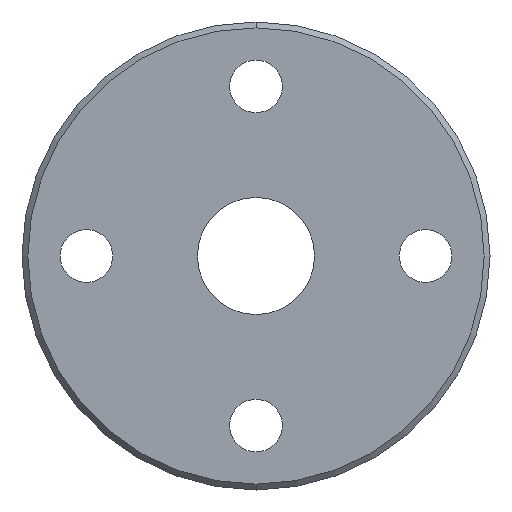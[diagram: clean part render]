
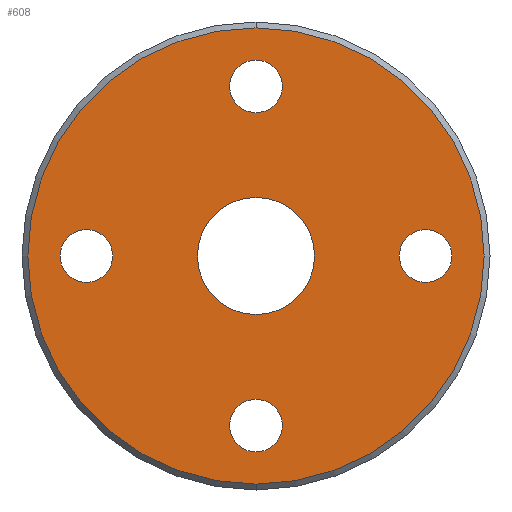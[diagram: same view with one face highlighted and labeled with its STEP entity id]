
A CAD part, front view. The second image highlights one B-rep face of the part: STEP entity #608.
In plain terms, the highlighted planar face has unit normal (0, -1, 0).
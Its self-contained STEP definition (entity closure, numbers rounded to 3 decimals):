
#12 = ORIENTED_EDGE ( 'NONE', *, *, #965, .T. ) ;
#25 = AXIS2_PLACEMENT_3D ( 'NONE', #927, #602, #122 ) ;
#32 = CIRCLE ( 'NONE', #446, 2.25 ) ;
#42 = EDGE_CURVE ( 'NONE', #319, #740, #1035, .T. ) ;
#44 = ORIENTED_EDGE ( 'NONE', *, *, #861, .T. ) ;
#65 = CARTESIAN_POINT ( 'NONE',  ( 0., 0., 16.75 ) ) ;
#72 = CARTESIAN_POINT ( 'NONE',  ( 0., 0., 0. ) ) ;
#73 = AXIS2_PLACEMENT_3D ( 'NONE', #74, #399, #723 ) ;
#74 = CARTESIAN_POINT ( 'NONE',  ( -14.5, 0., 0. ) ) ;
#76 = FACE_BOUND ( 'NONE', #309, .T. ) ;
#87 = DIRECTION ( 'NONE',  ( 0., 1., 0. ) ) ;
#104 = CARTESIAN_POINT ( 'NONE',  ( 0., 0., 14.5 ) ) ;
#110 = DIRECTION ( 'NONE',  ( 0., 1., 0. ) ) ;
#122 = DIRECTION ( 'NONE',  ( 0., 0., 1. ) ) ;
#140 = DIRECTION ( 'NONE',  ( 0., 1., 0. ) ) ;
#144 = CIRCLE ( 'NONE', #592, 19.5 ) ;
#145 = FACE_BOUND ( 'NONE', #604, .T. ) ;
#150 = DIRECTION ( 'NONE',  ( 0., 0., 1. ) ) ;
#160 = CARTESIAN_POINT ( 'NONE',  ( -14.5, 0., -2.25 ) ) ;
#164 = EDGE_LOOP ( 'NONE', ( #386, #616 ) ) ;
#169 = CARTESIAN_POINT ( 'NONE',  ( 0., 0., 12.25 ) ) ;
#189 = CARTESIAN_POINT ( 'NONE',  ( 0., 0., -5. ) ) ;
#193 = AXIS2_PLACEMENT_3D ( 'NONE', #877, #140, #150 ) ;
#196 = CARTESIAN_POINT ( 'NONE',  ( 0., 0., -14.5 ) ) ;
#208 = DIRECTION ( 'NONE',  ( 0., 0., -1. ) ) ;
#230 = EDGE_LOOP ( 'NONE', ( #854, #805 ) ) ;
#237 = EDGE_CURVE ( 'NONE', #850, #562, #554, .T. ) ;
#241 = DIRECTION ( 'NONE',  ( 0., 1., 0. ) ) ;
#242 = DIRECTION ( 'NONE',  ( 0., 1., 0. ) ) ;
#265 = VERTEX_POINT ( 'NONE', #798 ) ;
#266 = DIRECTION ( 'NONE',  ( 0., 0., 1. ) ) ;
#292 = CARTESIAN_POINT ( 'NONE',  ( 0., 0., 0. ) ) ;
#302 = VERTEX_POINT ( 'NONE', #634 ) ;
#304 = EDGE_CURVE ( 'NONE', #614, #955, #445, .T. ) ;
#309 = EDGE_LOOP ( 'NONE', ( #44, #643 ) ) ;
#313 = CARTESIAN_POINT ( 'NONE',  ( 0., 0., -16.75 ) ) ;
#319 = VERTEX_POINT ( 'NONE', #160 ) ;
#349 = AXIS2_PLACEMENT_3D ( 'NONE', #638, #241, #693 ) ;
#385 = EDGE_LOOP ( 'NONE', ( #12, #882 ) ) ;
#386 = ORIENTED_EDGE ( 'NONE', *, *, #931, .F. ) ;
#387 = FACE_OUTER_BOUND ( 'NONE', #385, .T. ) ;
#399 = DIRECTION ( 'NONE',  ( 0., 1., 0. ) ) ;
#408 = ORIENTED_EDGE ( 'NONE', *, *, #304, .T. ) ;
#425 = VERTEX_POINT ( 'NONE', #189 ) ;
#426 = CARTESIAN_POINT ( 'NONE',  ( -14.5, 0., 2.25 ) ) ;
#432 = CARTESIAN_POINT ( 'NONE',  ( 0., 0., 5. ) ) ;
#436 = DIRECTION ( 'NONE',  ( 0., 1., 0. ) ) ;
#445 = CIRCLE ( 'NONE', #824, 2.25 ) ;
#446 = AXIS2_PLACEMENT_3D ( 'NONE', #908, #499, #997 ) ;
#466 = PLANE ( 'NONE',  #956 ) ;
#495 = CIRCLE ( 'NONE', #628, 5. ) ;
#499 = DIRECTION ( 'NONE',  ( 0., 1., 0. ) ) ;
#520 = ORIENTED_EDGE ( 'NONE', *, *, #594, .T. ) ;
#554 = CIRCLE ( 'NONE', #25, 19.5 ) ;
#557 = FACE_BOUND ( 'NONE', #164, .T. ) ;
#560 = ORIENTED_EDGE ( 'NONE', *, *, #889, .T. ) ;
#562 = VERTEX_POINT ( 'NONE', #797 ) ;
#582 = CIRCLE ( 'NONE', #646, 2.25 ) ;
#592 = AXIS2_PLACEMENT_3D ( 'NONE', #72, #1031, #864 ) ;
#594 = EDGE_CURVE ( 'NONE', #302, #265, #1009, .T. ) ;
#596 = CIRCLE ( 'NONE', #714, 5. ) ;
#602 = DIRECTION ( 'NONE',  ( 0., -1., 0. ) ) ;
#604 = EDGE_LOOP ( 'NONE', ( #560, #408 ) ) ;
#606 = DIRECTION ( 'NONE',  ( 0., -1., 0. ) ) ;
#608 = ADVANCED_FACE ( 'NONE', ( #557, #76, #968, #1032, #145, #387 ), #466, .F. ) ;
#614 = VERTEX_POINT ( 'NONE', #313 ) ;
#616 = ORIENTED_EDGE ( 'NONE', *, *, #917, .F. ) ;
#628 = AXIS2_PLACEMENT_3D ( 'NONE', #752, #758, #765 ) ;
#634 = CARTESIAN_POINT ( 'NONE',  ( 14.5, 0., -2.25 ) ) ;
#638 = CARTESIAN_POINT ( 'NONE',  ( 14.5, 0., 0. ) ) ;
#643 = ORIENTED_EDGE ( 'NONE', *, *, #42, .T. ) ;
#646 = AXIS2_PLACEMENT_3D ( 'NONE', #104, #110, #266 ) ;
#692 = VERTEX_POINT ( 'NONE', #169 ) ;
#693 = DIRECTION ( 'NONE',  ( 0., 0., 1. ) ) ;
#695 = AXIS2_PLACEMENT_3D ( 'NONE', #827, #87, #810 ) ;
#714 = AXIS2_PLACEMENT_3D ( 'NONE', #292, #606, #208 ) ;
#719 = DIRECTION ( 'NONE',  ( 1., 0., 0. ) ) ;
#721 = EDGE_CURVE ( 'NONE', #265, #302, #1012, .T. ) ;
#723 = DIRECTION ( 'NONE',  ( 0., 0., 1. ) ) ;
#735 = EDGE_CURVE ( 'NONE', #692, #875, #582, .T. ) ;
#740 = VERTEX_POINT ( 'NONE', #426 ) ;
#752 = CARTESIAN_POINT ( 'NONE',  ( 0., 0., 0. ) ) ;
#758 = DIRECTION ( 'NONE',  ( 0., -1., 0. ) ) ;
#765 = DIRECTION ( 'NONE',  ( 0., 0., -1. ) ) ;
#791 = CARTESIAN_POINT ( 'NONE',  ( 0., 0., 0. ) ) ;
#797 = CARTESIAN_POINT ( 'NONE',  ( 0., 0., 19.5 ) ) ;
#798 = CARTESIAN_POINT ( 'NONE',  ( 14.5, 0., 2.25 ) ) ;
#805 = ORIENTED_EDGE ( 'NONE', *, *, #735, .T. ) ;
#810 = DIRECTION ( 'NONE',  ( 0., 0., 1. ) ) ;
#824 = AXIS2_PLACEMENT_3D ( 'NONE', #975, #242, #891 ) ;
#827 = CARTESIAN_POINT ( 'NONE',  ( 14.5, 0., 0. ) ) ;
#850 = VERTEX_POINT ( 'NONE', #863 ) ;
#854 = ORIENTED_EDGE ( 'NONE', *, *, #1024, .T. ) ;
#858 = ORIENTED_EDGE ( 'NONE', *, *, #721, .T. ) ;
#861 = EDGE_CURVE ( 'NONE', #740, #319, #1027, .T. ) ;
#863 = CARTESIAN_POINT ( 'NONE',  ( 0., 0., -19.5 ) ) ;
#864 = DIRECTION ( 'NONE',  ( 0., 0., 1. ) ) ;
#875 = VERTEX_POINT ( 'NONE', #65 ) ;
#877 = CARTESIAN_POINT ( 'NONE',  ( -14.5, 0., 0. ) ) ;
#878 = CARTESIAN_POINT ( 'NONE',  ( 0., 0., -12.25 ) ) ;
#882 = ORIENTED_EDGE ( 'NONE', *, *, #237, .T. ) ;
#883 = DIRECTION ( 'NONE',  ( 0., 1., 0. ) ) ;
#889 = EDGE_CURVE ( 'NONE', #955, #614, #941, .T. ) ;
#891 = DIRECTION ( 'NONE',  ( 0., 0., 1. ) ) ;
#893 = VERTEX_POINT ( 'NONE', #432 ) ;
#908 = CARTESIAN_POINT ( 'NONE',  ( 0., 0., 14.5 ) ) ;
#917 = EDGE_CURVE ( 'NONE', #893, #425, #495, .T. ) ;
#926 = AXIS2_PLACEMENT_3D ( 'NONE', #196, #436, #932 ) ;
#927 = CARTESIAN_POINT ( 'NONE',  ( 0., 0., 0. ) ) ;
#931 = EDGE_CURVE ( 'NONE', #425, #893, #596, .T. ) ;
#932 = DIRECTION ( 'NONE',  ( 0., 0., 1. ) ) ;
#941 = CIRCLE ( 'NONE', #926, 2.25 ) ;
#955 = VERTEX_POINT ( 'NONE', #878 ) ;
#956 = AXIS2_PLACEMENT_3D ( 'NONE', #791, #883, #719 ) ;
#965 = EDGE_CURVE ( 'NONE', #562, #850, #144, .T. ) ;
#968 = FACE_BOUND ( 'NONE', #230, .T. ) ;
#975 = CARTESIAN_POINT ( 'NONE',  ( 0., 0., -14.5 ) ) ;
#988 = EDGE_LOOP ( 'NONE', ( #858, #520 ) ) ;
#997 = DIRECTION ( 'NONE',  ( 0., 0., 1. ) ) ;
#1009 = CIRCLE ( 'NONE', #349, 2.25 ) ;
#1012 = CIRCLE ( 'NONE', #695, 2.25 ) ;
#1024 = EDGE_CURVE ( 'NONE', #875, #692, #32, .T. ) ;
#1027 = CIRCLE ( 'NONE', #193, 2.25 ) ;
#1031 = DIRECTION ( 'NONE',  ( 0., -1., 0. ) ) ;
#1032 = FACE_BOUND ( 'NONE', #988, .T. ) ;
#1035 = CIRCLE ( 'NONE', #73, 2.25 ) ;
